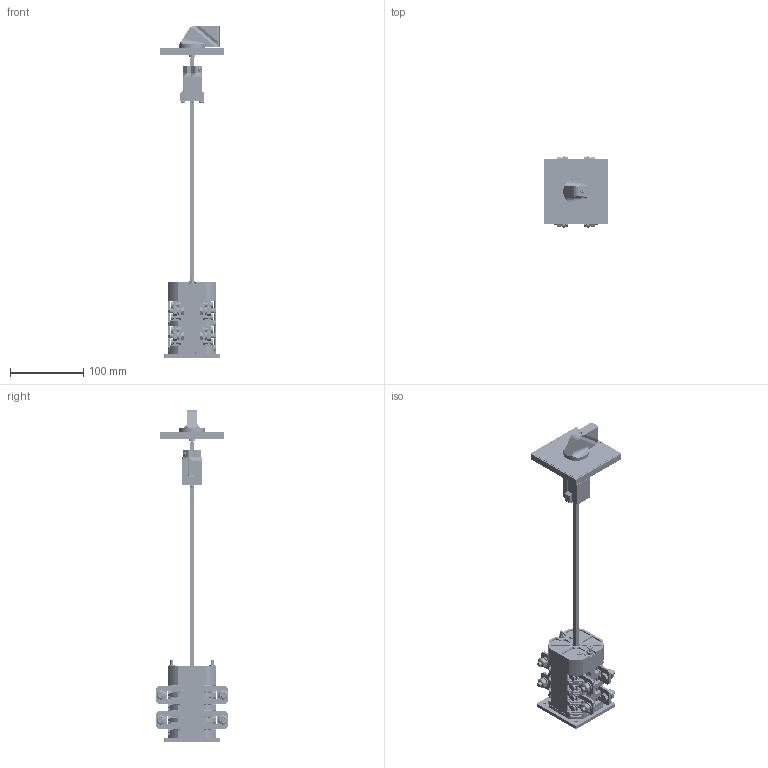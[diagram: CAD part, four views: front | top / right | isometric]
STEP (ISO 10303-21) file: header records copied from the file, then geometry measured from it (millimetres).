
FILE_DESCRIPTION (( 'STEP AP214' ), '1' );
FILE_NAME ('4G100-XXXX-OU-S7-R212,R214,S24 4ê.STEP', '2023-02-15T11:30:08', ( '' ), ( '' ), 'SwSTEP 2.0', 'SolidWorks 2018', '' );
FILE_SCHEMA (( 'AUTOMOTIVE_DESIGN' ));
Length unit declared in the file: millimetre
Products named in the file (1): 4G100-XXXX-OU-S7-R212,R214,S24 4ê
Bounding box: 88 x 99 x 452.12 mm (x, y, z)
Volume: 332897.3 mm3; surface area: 263856.4 mm2
Topology: 136 solids, 136 shells, 6562 faces, 16719 edges, 10532 vertices
Faces by surface type: plane 3869, cylinder 2123, cone 268, torus 199, bspline 81, sphere 22
Entity records: 319799 total; most frequent: CARTESIAN_POINT 87935, ORIENTED_EDGE 33396, DIRECTION 32668, EDGE_CURVE 16698, AXIS2_PLACEMENT_3D 10958, VECTOR 10752, LINE 10752, VERTEX_POINT 10530
